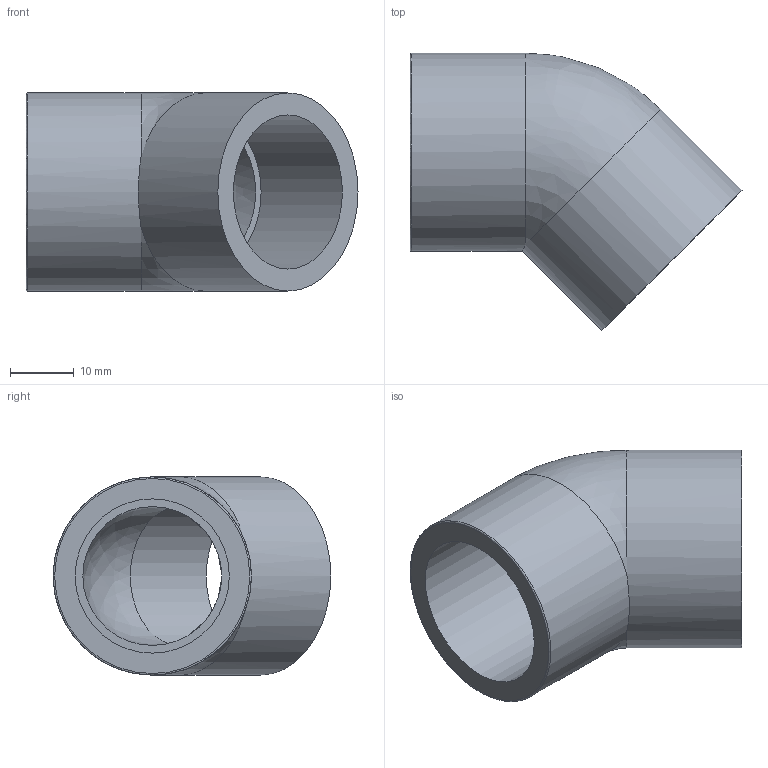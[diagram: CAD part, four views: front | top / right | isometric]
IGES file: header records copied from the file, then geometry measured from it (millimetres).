
Global section: file name: 054501007.ipt; native system: Autodesk Inventor 2015; preprocessor: unknown; author: KIM; date: 20180927.115356; units: millimetre
Bounding box: 51.93 x 43.43 x 31 mm (x, y, z)
Volume: 15197.4 mm3; surface area: 8878.6 mm2
Topology: 1 solids, 1 shells, 11 faces, 26 edges, 17 vertices
Faces by surface type: revolution 4, plane 4, cylinder 2, bspline 1
Full cylindrical faces by diameter (mm): 31 x2
